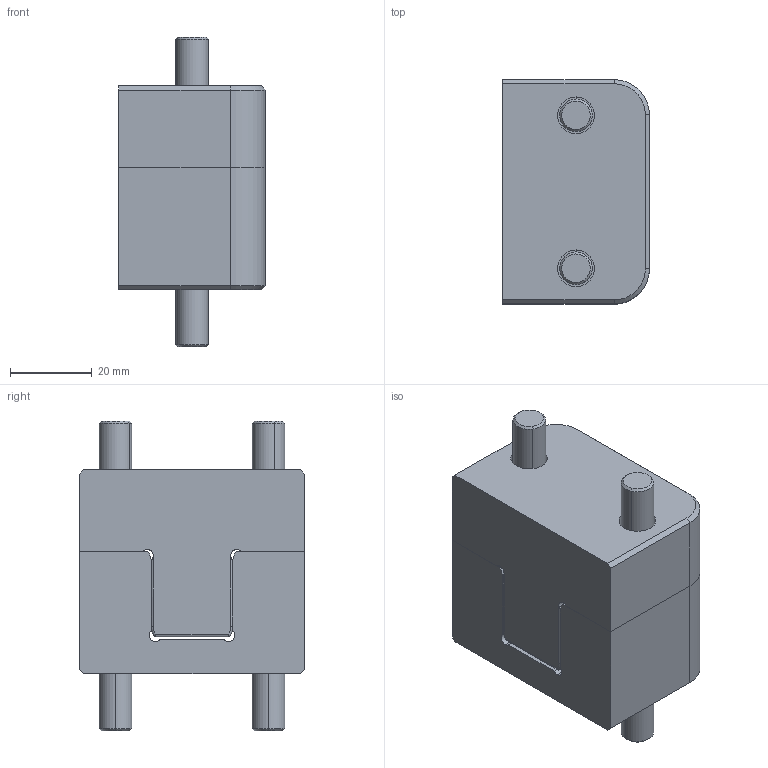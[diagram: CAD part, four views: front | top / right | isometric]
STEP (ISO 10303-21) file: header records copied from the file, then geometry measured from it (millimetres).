
FILE_DESCRIPTION (( 'STEP AP203' ), '1' );
FILE_NAME ('TLM36X55.step', '2018-03-16T16:55:13', ( '' ), ( '' ), 'SwSTEP 2.0', 'SolidWorks 2015', '' );
FILE_SCHEMA (( 'CONFIG_CONTROL_DESIGN' ));
Length unit declared in the file: millimetre
Products named in the file (5): TLM36X55 MALE; M8_X_22; M8_X_35; TLM36X55; TLM36X55 FEMALE
Assembly tree (6 placements, depth 2):
  TLM36X55
    TLM36X55 MALE
    TLM36X55 FEMALE
    M8_X_22  x2
    M8_X_35  x2
Bounding box: 36 x 55 x 76 mm (x, y, z)
Volume: 94613.9 mm3; surface area: 28049.2 mm2
Topology: 6 solids, 6 shells, 392 faces, 864 edges, 564 vertices
Faces by surface type: cylinder 197, plane 149, cone 22, torus 18, bspline 6
Entity records: 10931 total; most frequent: CARTESIAN_POINT 2121, DIRECTION 1880, ORIENTED_EDGE 1576, EDGE_CURVE 788, AXIS2_PLACEMENT_3D 777, VERTEX_POINT 516, EDGE_LOOP 440, CIRCLE 418
